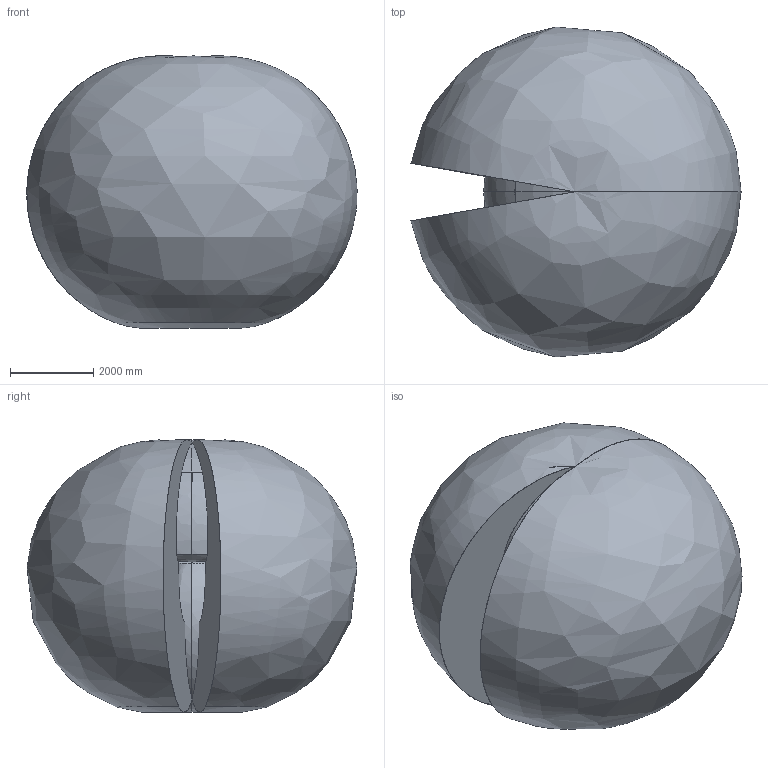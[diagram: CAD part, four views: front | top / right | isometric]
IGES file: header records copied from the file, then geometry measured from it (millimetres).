
Start section: SolidWorks IGES file using analytic representation for surfaces
Global section: file name: N:\DM\Robotics\SEROP_PROJ\Product Development\DevelopmentProjects\Manipulator_Modularity\04. Product Design\06. CAD\Amanda\6730S Simulation models\IRB6730S_150kg-400_OC_01_IGES_J\IRB6730S_150kg-400_OC_00_Working-envelope.igs; native system: SolidWorks 2024; preprocessor: SolidWorks 2024; author: SEJOHLUN; date: 251219.140143; units: millimetre
Bounding box: 7942.26 x 7933.39 x 6550.95 mm (x, y, z)
Surface area: 256611793.7 mm2 (no closed solid volume)
Topology: 0 solids, 0 shells, 29 faces, 668 edges, 660 vertices
Faces by surface type: bspline 27, revolution 2
